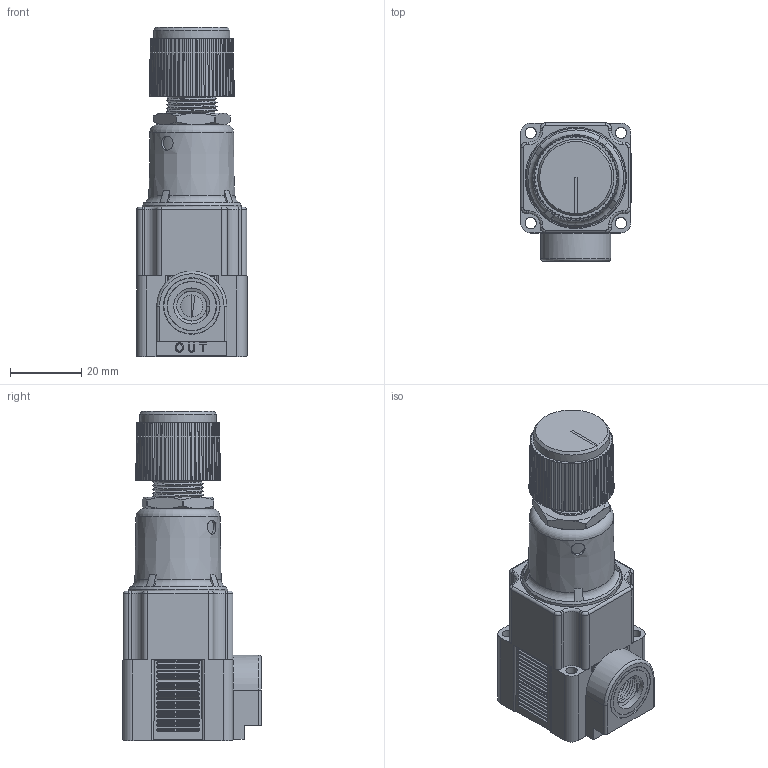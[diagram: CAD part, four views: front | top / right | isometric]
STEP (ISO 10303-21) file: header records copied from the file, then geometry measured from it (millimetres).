
FILE_DESCRIPTION(/* description */ (''),/* implementation_level */ '2;1');
FILE_NAME(/* name */ 'K:\Normteile INVENTOR\Air-Logic\Regulators\NR4000\NR 4___ 1 1''8-27 NPT Threads Out.igs.ipt.stp',/* time_stamp */ '2020-05-27T10:50:16+02:00',/* author */ ('Paul'),/* organization */ (''),/* preprocessor_version */ 'ST-DEVELOPER v18',/* originating_system */ 'Autodesk Inventor 2020',/* authorisation */ '');
FILE_SCHEMA (('AUTOMOTIVE_DESIGN { 1 0 10303 214 3 1 1 }'));
Length unit declared in the file: inch
Products named in the file (1): NR 4___ 1 1'8-27 NPT Threads Out.igs
Bounding box: 31.06 x 39.06 x 92.65 mm (x, y, z)
Volume: 57096.5 mm3; surface area: 19663.7 mm2
Topology: 1 solids, 1 shells, 974 faces, 2507 edges, 1600 vertices
Faces by surface type: plane 468, cylinder 355, cone 82, bspline 47, torus 22
Full cylindrical faces by diameter (mm): 3.175 x4, 3.988 x1, 4.039 x1, 4.064 x1, 6.248 x1, 8.458 x6, 9.169 x1, 9.652 x1, 10.163 x1, 12.903 x1, 13.716 x1, 13.872 x1, 14.288 x2, 15.707 x1, 15.913 x1, 19.406 x1, 21.476 x1, 26.264 x1, 27.94 x1, 27.991 x1, 28.575 x1
Entity records: 41310 total; most frequent: CARTESIAN_POINT 16253, DIRECTION 5141, ORIENTED_EDGE 5014, EDGE_CURVE 2507, AXIS2_PLACEMENT_3D 1960, VERTEX_POINT 1600, LINE 1221, VECTOR 1221
